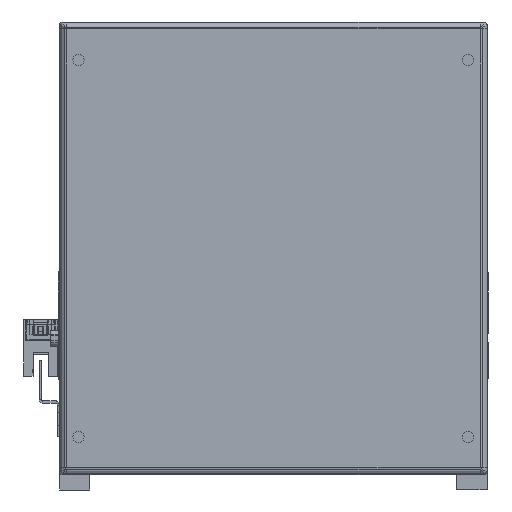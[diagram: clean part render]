
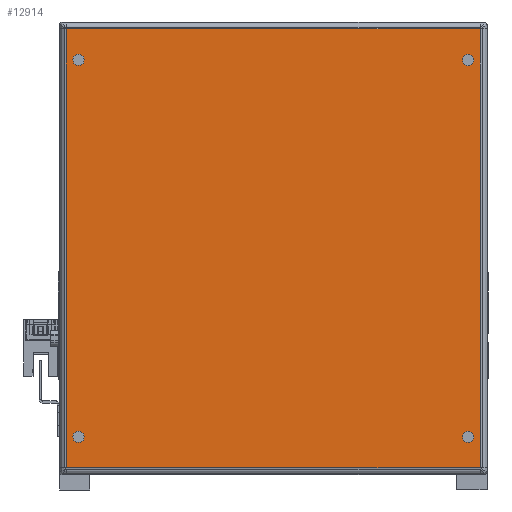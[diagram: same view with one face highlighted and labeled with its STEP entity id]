
A CAD part, front view. The second image highlights one B-rep face of the part: STEP entity #12914.
In plain terms, the highlighted planar face has unit normal (0, -1, 0) as drawn and (0, 0, -1) by its records, which use the part's own axes.
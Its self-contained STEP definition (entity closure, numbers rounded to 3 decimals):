
#184 = EDGE_LOOP ( 'NONE', ( #6565, #11023, #25785, #19165 ) ) ;
#1108 = FACE_BOUND ( 'NONE', #1285, .T. ) ;
#1226 = CIRCLE ( 'NONE', #18207, 2.25 ) ;
#1285 = EDGE_LOOP ( 'NONE', ( #23264 ) ) ;
#1388 = DIRECTION ( 'NONE',  ( -1., 0., 0. ) ) ;
#1506 = ORIENTED_EDGE ( 'NONE', *, *, #23761, .F. ) ;
#1904 = DIRECTION ( 'NONE',  ( 0., 0., -1. ) ) ;
#2355 = EDGE_LOOP ( 'NONE', ( #10031 ) ) ;
#2454 = DIRECTION ( 'NONE',  ( 0., 1., 0. ) ) ;
#2617 = VERTEX_POINT ( 'NONE', #25088 ) ;
#2785 = EDGE_LOOP ( 'NONE', ( #1506 ) ) ;
#2902 = FACE_BOUND ( 'NONE', #14602, .T. ) ;
#3930 = AXIS2_PLACEMENT_3D ( 'NONE', #19531, #5153, #20448 ) ;
#4257 = FACE_BOUND ( 'NONE', #2785, .T. ) ;
#4560 = CARTESIAN_POINT ( 'NONE',  ( -1.046, 134.494, -47. ) ) ;
#5153 = DIRECTION ( 'NONE',  ( 0., 0., -1. ) ) ;
#5210 = EDGE_CURVE ( 'NONE', #12688, #11615, #18458, .T. ) ;
#5602 = CARTESIAN_POINT ( 'NONE',  ( 172.51, 134.524, -47. ) ) ;
#5857 = DIRECTION ( 'NONE',  ( -1., 0., 0. ) ) ;
#5987 = CIRCLE ( 'NONE', #3930, 2.25 ) ;
#6565 = ORIENTED_EDGE ( 'NONE', *, *, #18549, .T. ) ;
#6845 = VERTEX_POINT ( 'NONE', #12153 ) ;
#7696 = CIRCLE ( 'NONE', #23544, 2.25 ) ;
#7852 = CARTESIAN_POINT ( 'NONE',  ( -1.016, -29.062, -47. ) ) ;
#8108 = LINE ( 'NONE', #27061, #24245 ) ;
#8960 = VERTEX_POINT ( 'NONE', #26514 ) ;
#9171 = AXIS2_PLACEMENT_3D ( 'NONE', #12118, #19365, #5857 ) ;
#10031 = ORIENTED_EDGE ( 'NONE', *, *, #21282, .F. ) ;
#10962 = DIRECTION ( 'NONE',  ( -1., 0., 0. ) ) ;
#11023 = ORIENTED_EDGE ( 'NONE', *, *, #17760, .T. ) ;
#11615 = VERTEX_POINT ( 'NONE', #16672 ) ;
#11965 = VERTEX_POINT ( 'NONE', #17378 ) ;
#12110 = VECTOR ( 'NONE', #2454, 1000. ) ;
#12118 = CARTESIAN_POINT ( 'NONE',  ( 160.247, -24.269, -47. ) ) ;
#12130 = AXIS2_PLACEMENT_3D ( 'NONE', #12766, #17300, #10962 ) ;
#12153 = CARTESIAN_POINT ( 'NONE',  ( 172.51, -29.032, -47. ) ) ;
#12688 = VERTEX_POINT ( 'NONE', #23893 ) ;
#12766 = CARTESIAN_POINT ( 'NONE',  ( 146.597, 2.271, -47. ) ) ;
#12914 = ADVANCED_FACE ( 'NONE', ( #25367, #4257, #1108, #2902, #20450 ), #24473, .T. ) ;
#13268 = CARTESIAN_POINT ( 'NONE',  ( 11.247, 129.731, -47. ) ) ;
#13994 = CARTESIAN_POINT ( 'NONE',  ( 11.247, -24.269, -47. ) ) ;
#14225 = VECTOR ( 'NONE', #18139, 1000. ) ;
#14602 = EDGE_LOOP ( 'NONE', ( #20477 ) ) ;
#16672 = CARTESIAN_POINT ( 'NONE',  ( 172.51, 134.494, -47. ) ) ;
#16719 = DIRECTION ( 'NONE',  ( -1., 0., 0. ) ) ;
#17300 = DIRECTION ( 'NONE',  ( 0., 0., -1. ) ) ;
#17378 = CARTESIAN_POINT ( 'NONE',  ( 8.997, -24.269, -47. ) ) ;
#17760 = EDGE_CURVE ( 'NONE', #8960, #12688, #23593, .T. ) ;
#18014 = DIRECTION ( 'NONE',  ( 1., 0., 0. ) ) ;
#18139 = DIRECTION ( 'NONE',  ( 0., -1., 0. ) ) ;
#18207 = AXIS2_PLACEMENT_3D ( 'NONE', #13994, #1904, #16719 ) ;
#18458 = LINE ( 'NONE', #4560, #22528 ) ;
#18549 = EDGE_CURVE ( 'NONE', #6845, #8960, #8108, .T. ) ;
#19165 = ORIENTED_EDGE ( 'NONE', *, *, #20042, .T. ) ;
#19174 = CARTESIAN_POINT ( 'NONE',  ( 157.997, 129.731, -47. ) ) ;
#19365 = DIRECTION ( 'NONE',  ( 0., 0., -1. ) ) ;
#19531 = CARTESIAN_POINT ( 'NONE',  ( 160.247, 129.731, -47. ) ) ;
#20017 = EDGE_CURVE ( 'NONE', #27329, #27329, #5987, .T. ) ;
#20042 = EDGE_CURVE ( 'NONE', #11615, #6845, #24013, .T. ) ;
#20072 = DIRECTION ( 'NONE',  ( 0., 0., -1. ) ) ;
#20448 = DIRECTION ( 'NONE',  ( -1., 0., 0. ) ) ;
#20450 = FACE_OUTER_BOUND ( 'NONE', #184, .T. ) ;
#20477 = ORIENTED_EDGE ( 'NONE', *, *, #24453, .F. ) ;
#20656 = CARTESIAN_POINT ( 'NONE',  ( 8.997, 129.731, -47. ) ) ;
#21282 = EDGE_CURVE ( 'NONE', #11965, #11965, #1226, .T. ) ;
#22528 = VECTOR ( 'NONE', #18014, 1000. ) ;
#23264 = ORIENTED_EDGE ( 'NONE', *, *, #20017, .F. ) ;
#23544 = AXIS2_PLACEMENT_3D ( 'NONE', #13268, #20072, #23652 ) ;
#23593 = LINE ( 'NONE', #7852, #12110 ) ;
#23652 = DIRECTION ( 'NONE',  ( -1., 0., 0. ) ) ;
#23761 = EDGE_CURVE ( 'NONE', #25578, #25578, #7696, .T. ) ;
#23893 = CARTESIAN_POINT ( 'NONE',  ( -1.016, 134.494, -47. ) ) ;
#24013 = LINE ( 'NONE', #5602, #14225 ) ;
#24245 = VECTOR ( 'NONE', #1388, 1000. ) ;
#24453 = EDGE_CURVE ( 'NONE', #2617, #2617, #25369, .T. ) ;
#24473 = PLANE ( 'NONE',  #12130 ) ;
#25088 = CARTESIAN_POINT ( 'NONE',  ( 157.997, -24.269, -47. ) ) ;
#25367 = FACE_BOUND ( 'NONE', #2355, .T. ) ;
#25369 = CIRCLE ( 'NONE', #9171, 2.25 ) ;
#25578 = VERTEX_POINT ( 'NONE', #20656 ) ;
#25785 = ORIENTED_EDGE ( 'NONE', *, *, #5210, .T. ) ;
#26514 = CARTESIAN_POINT ( 'NONE',  ( -1.016, -29.032, -47. ) ) ;
#27061 = CARTESIAN_POINT ( 'NONE',  ( 172.54, -29.032, -47. ) ) ;
#27329 = VERTEX_POINT ( 'NONE', #19174 ) ;
